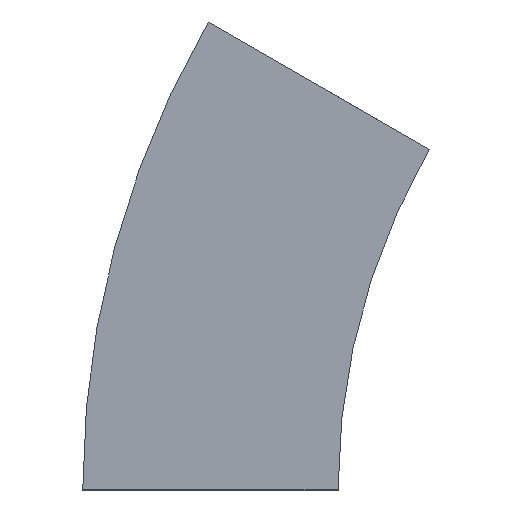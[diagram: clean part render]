
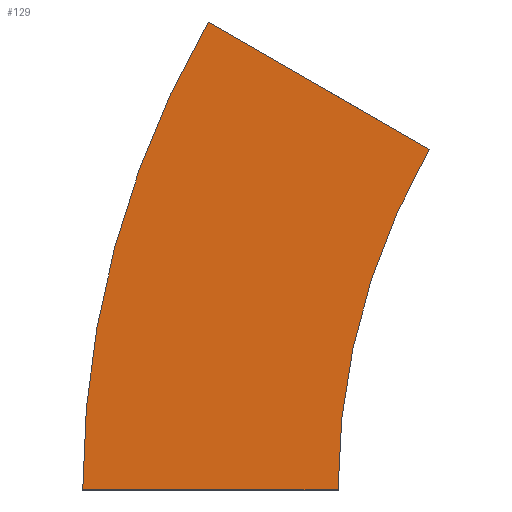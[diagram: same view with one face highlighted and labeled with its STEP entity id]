
A CAD part, left-side view. The second image highlights one B-rep face of the part: STEP entity #129.
In plain terms, the highlighted planar face has unit normal (-1, 0, 0) as drawn and (1, 0, 0) by its records, which use the part's own axes.
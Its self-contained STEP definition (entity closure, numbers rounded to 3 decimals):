
#32 = VERTEX_POINT ( 'NONE', #173 ) ;
#39 = CARTESIAN_POINT ( 'NONE',  ( 0., -40.192, 150. ) ) ;
#41 = DIRECTION ( 'NONE',  ( 0., 0., -1. ) ) ;
#67 = CIRCLE ( 'NONE', #544, 412.5 ) ;
#69 = DIRECTION ( 'NONE',  ( 0., 0.866, 0.5 ) ) ;
#92 = EDGE_CURVE ( 'NONE', #32, #108, #310, .T. ) ;
#108 = VERTEX_POINT ( 'NONE', #228 ) ;
#129 = ADVANCED_FACE ( 'NONE', ( #317 ), #488, .T. ) ;
#141 = CARTESIAN_POINT ( 'NONE',  ( 0., 0., 0. ) ) ;
#154 = ORIENTED_EDGE ( 'NONE', *, *, #178, .F. ) ;
#173 = CARTESIAN_POINT ( 'NONE',  ( 0., 0., 0. ) ) ;
#174 = AXIS2_PLACEMENT_3D ( 'NONE', #141, #441, #41 ) ;
#178 = EDGE_CURVE ( 'NONE', #179, #274, #206, .T. ) ;
#179 = VERTEX_POINT ( 'NONE', #39 ) ;
#181 = CARTESIAN_POINT ( 'NONE',  ( 0., 0., 0. ) ) ;
#193 = DIRECTION ( 'NONE',  ( 1., 0., 0. ) ) ;
#206 = LINE ( 'NONE', #378, #243 ) ;
#228 = CARTESIAN_POINT ( 'NONE',  ( 0., 112.5, 0. ) ) ;
#241 = DIRECTION ( 'NONE',  ( 0., 1., 0. ) ) ;
#243 = VECTOR ( 'NONE', #69, 1000. ) ;
#274 = VERTEX_POINT ( 'NONE', #553 ) ;
#290 = DIRECTION ( 'NONE',  ( 0., 1., 0. ) ) ;
#294 = AXIS2_PLACEMENT_3D ( 'NONE', #322, #193, #290 ) ;
#310 = LINE ( 'NONE', #181, #431 ) ;
#313 = EDGE_LOOP ( 'NONE', ( #391, #154, #403, #338 ) ) ;
#317 = FACE_OUTER_BOUND ( 'NONE', #313, .T. ) ;
#322 = CARTESIAN_POINT ( 'NONE',  ( 0., -300., 0. ) ) ;
#338 = ORIENTED_EDGE ( 'NONE', *, *, #92, .T. ) ;
#352 = EDGE_CURVE ( 'NONE', #108, #274, #67, .T. ) ;
#353 = DIRECTION ( 'NONE',  ( 0., 1., 0. ) ) ;
#378 = CARTESIAN_POINT ( 'NONE',  ( 0., -40.192, 150. ) ) ;
#391 = ORIENTED_EDGE ( 'NONE', *, *, #352, .T. ) ;
#403 = ORIENTED_EDGE ( 'NONE', *, *, #552, .F. ) ;
#406 = DIRECTION ( 'NONE',  ( 1., 0., 0. ) ) ;
#431 = VECTOR ( 'NONE', #353, 1000. ) ;
#441 = DIRECTION ( 'NONE',  ( 1., 0., 0. ) ) ;
#448 = CIRCLE ( 'NONE', #294, 300. ) ;
#455 = CARTESIAN_POINT ( 'NONE',  ( 0., -300., 0. ) ) ;
#488 = PLANE ( 'NONE',  #174 ) ;
#544 = AXIS2_PLACEMENT_3D ( 'NONE', #455, #406, #241 ) ;
#552 = EDGE_CURVE ( 'NONE', #32, #179, #448, .T. ) ;
#553 = CARTESIAN_POINT ( 'NONE',  ( 0., 57.235, 206.25 ) ) ;
